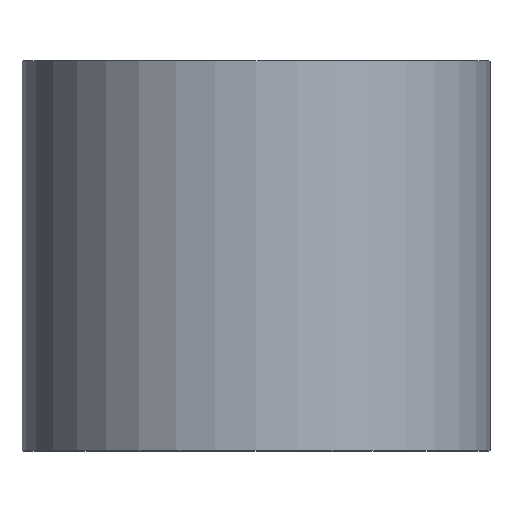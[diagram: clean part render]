
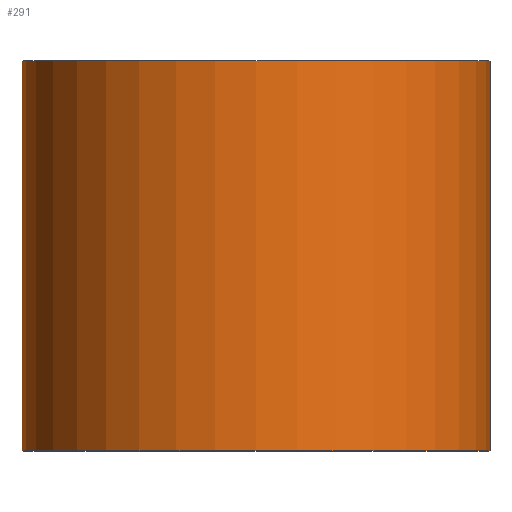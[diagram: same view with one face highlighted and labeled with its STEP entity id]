
A CAD part, top view. The second image highlights one B-rep face of the part: STEP entity #291.
In plain terms, the highlighted cylindrical face has radius 6 mm (diameter 12 mm), a partial arc.
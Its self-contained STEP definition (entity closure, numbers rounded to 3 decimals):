
#14 = CIRCLE ( 'NONE', #280, 6. ) ;
#36 = CARTESIAN_POINT ( 'NONE',  ( -6., 0., 0. ) ) ;
#43 = DIRECTION ( 'NONE',  ( -1., 0., 0. ) ) ;
#46 = ORIENTED_EDGE ( 'NONE', *, *, #252, .F. ) ;
#52 = DIRECTION ( 'NONE',  ( 0., 1., 0. ) ) ;
#64 = DIRECTION ( 'NONE',  ( -1., 0., 0. ) ) ;
#72 = CARTESIAN_POINT ( 'NONE',  ( 6., 0., 0. ) ) ;
#76 = VERTEX_POINT ( 'NONE', #72 ) ;
#99 = DIRECTION ( 'NONE',  ( 0., 1., 0. ) ) ;
#104 = CARTESIAN_POINT ( 'NONE',  ( -6., 0., 0. ) ) ;
#109 = EDGE_CURVE ( 'NONE', #76, #190, #258, .T. ) ;
#112 = ORIENTED_EDGE ( 'NONE', *, *, #109, .T. ) ;
#114 = CARTESIAN_POINT ( 'NONE',  ( 6., 10., 0. ) ) ;
#125 = EDGE_CURVE ( 'NONE', #164, #267, #279, .T. ) ;
#133 = VECTOR ( 'NONE', #99, 1000. ) ;
#137 = DIRECTION ( 'NONE',  ( 0., 1., 0. ) ) ;
#139 = AXIS2_PLACEMENT_3D ( 'NONE', #295, #183, #251 ) ;
#142 = CYLINDRICAL_SURFACE ( 'NONE', #139, 6. ) ;
#149 = CARTESIAN_POINT ( 'NONE',  ( 0., 0., 0. ) ) ;
#156 = FACE_OUTER_BOUND ( 'NONE', #224, .T. ) ;
#158 = EDGE_CURVE ( 'NONE', #164, #76, #14, .T. ) ;
#164 = VERTEX_POINT ( 'NONE', #104 ) ;
#177 = CARTESIAN_POINT ( 'NONE',  ( 6., 0., 0. ) ) ;
#183 = DIRECTION ( 'NONE',  ( 0., 1., 0. ) ) ;
#187 = DIRECTION ( 'NONE',  ( 0., 1., 0. ) ) ;
#190 = VERTEX_POINT ( 'NONE', #114 ) ;
#207 = CARTESIAN_POINT ( 'NONE',  ( -6., 10., 0. ) ) ;
#219 = AXIS2_PLACEMENT_3D ( 'NONE', #226, #187, #43 ) ;
#224 = EDGE_LOOP ( 'NONE', ( #272, #112, #46, #227 ) ) ;
#226 = CARTESIAN_POINT ( 'NONE',  ( 0., 10., 0. ) ) ;
#227 = ORIENTED_EDGE ( 'NONE', *, *, #125, .F. ) ;
#236 = VECTOR ( 'NONE', #52, 1000. ) ;
#251 = DIRECTION ( 'NONE',  ( -1., 0., 0. ) ) ;
#252 = EDGE_CURVE ( 'NONE', #267, #190, #282, .T. ) ;
#258 = LINE ( 'NONE', #177, #133 ) ;
#267 = VERTEX_POINT ( 'NONE', #207 ) ;
#272 = ORIENTED_EDGE ( 'NONE', *, *, #158, .T. ) ;
#279 = LINE ( 'NONE', #36, #236 ) ;
#280 = AXIS2_PLACEMENT_3D ( 'NONE', #149, #137, #64 ) ;
#282 = CIRCLE ( 'NONE', #219, 6. ) ;
#291 = ADVANCED_FACE ( 'NONE', ( #156 ), #142, .T. ) ;
#295 = CARTESIAN_POINT ( 'NONE',  ( 0., 0., 0. ) ) ;
